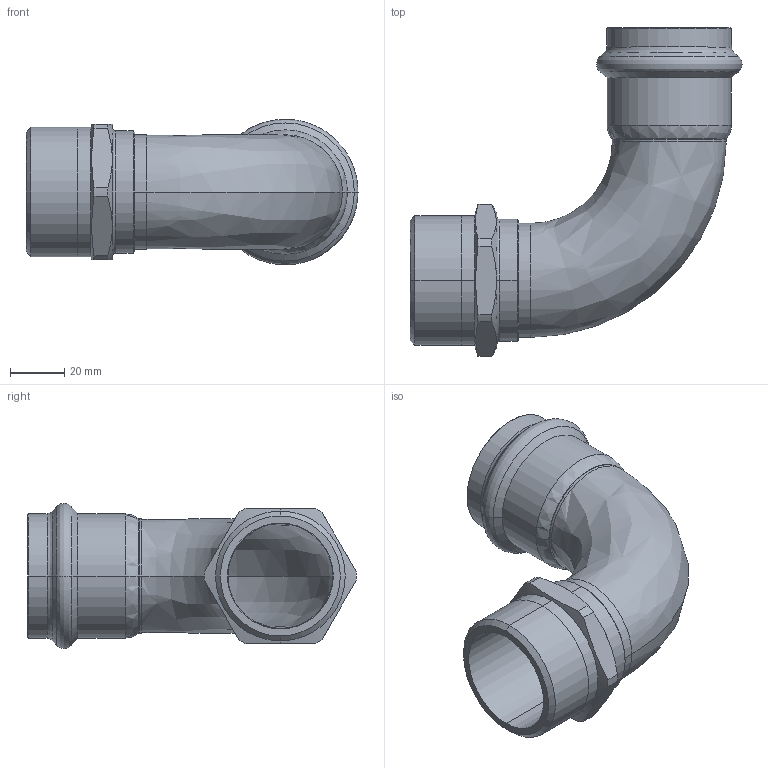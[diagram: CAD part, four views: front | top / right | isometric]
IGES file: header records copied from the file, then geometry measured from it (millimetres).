
Start section: Elysium IGES Interface
Global section: file name: C:\3d modellen sudo\C-Pr VP\SP8092GV\8092GVW42112.igs; native system: CoCreate Modeling 17.00A  17-Jun-2010; preprocessor: CoCreate IGES_3D V2.2; author: Unknown; organization: Unknown; date: 20130305.113145; units: millimetre
Bounding box: 122.31 x 121.09 x 53.57 mm (x, y, z)
Volume: 57209.3 mm3; surface area: 47047.7 mm2
Topology: 1 solids, 1 shells, 91 faces, 201 edges, 114 vertices
Faces by surface type: bspline 91
